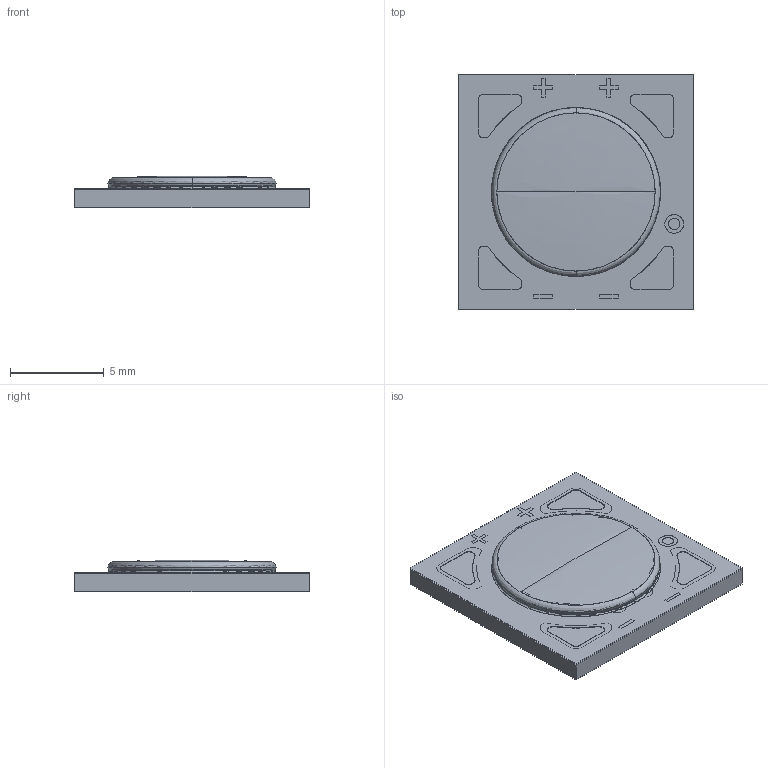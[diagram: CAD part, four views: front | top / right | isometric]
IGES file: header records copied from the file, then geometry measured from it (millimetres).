
Start section: SolidWorks IGES file using analytic representation for surfaces
Global section: file name: C:\Users\jiaqichen\Desktop\Bridgelux Gen 7 V8 Mechanical File (IGS format).IGS; native system: SolidWorks 2017; preprocessor: SolidWorks 2017; author: jiaqichen; date: 170609.144303; units: millimetre
Bounding box: 12.5 x 12.5 x 1.7 mm (x, y, z)
Surface area: 806.3 mm2 (no closed solid volume)
Topology: 0 solids, 0 shells, 188 faces, 1662 edges, 1654 vertices
Faces by surface type: bspline 122, revolution 66
